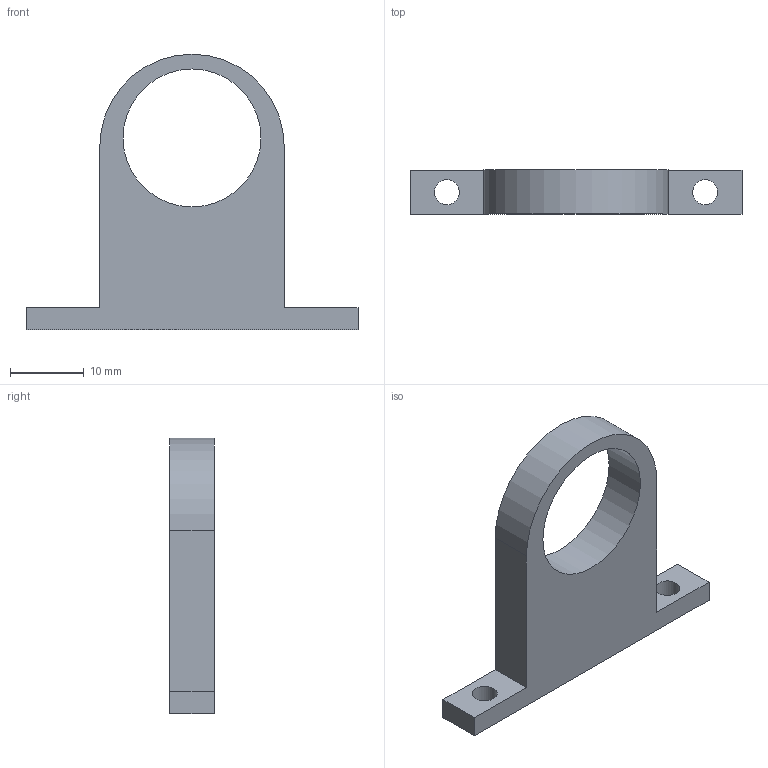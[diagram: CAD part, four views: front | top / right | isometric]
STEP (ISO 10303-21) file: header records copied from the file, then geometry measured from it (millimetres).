
FILE_DESCRIPTION(/* description */ (''),/* implementation_level */ '2;1');
FILE_NAME(/* name */ 'CWC-SE0004-P04_Bearing Holder fwd.stp',/* time_stamp */ '2026-04-28T16:22:44+02:00',/* author */ (''),/* organization */ (''),/* preprocessor_version */ 'ST-DEVELOPER v18.1',/* originating_system */ 'SIEMENS PLM Software NX 1988',/* authorisation */ '');
FILE_SCHEMA (('AUTOMOTIVE_DESIGN { 1 0 10303 214 3 1 1 1 }'));
Length unit declared in the file: millimetre
Products named in the file (1): anto6558201A7f1z
Bounding box: 45 x 6 x 37.35 mm (x, y, z)
Volume: 3857.8 mm3; surface area: 2608.2 mm2
Topology: 1 solids, 1 shells, 13 faces, 33 edges, 22 vertices
Faces by surface type: plane 9, cylinder 4
Full cylindrical faces by diameter (mm): 3.4 x2, 18.7 x1
Entity records: 424 total; most frequent: DIRECTION 66, CARTESIAN_POINT 66, ORIENTED_EDGE 60, EDGE_CURVE 30, EDGE_LOOP 22, VERTEX_POINT 22, LINE 22, VECTOR 22
